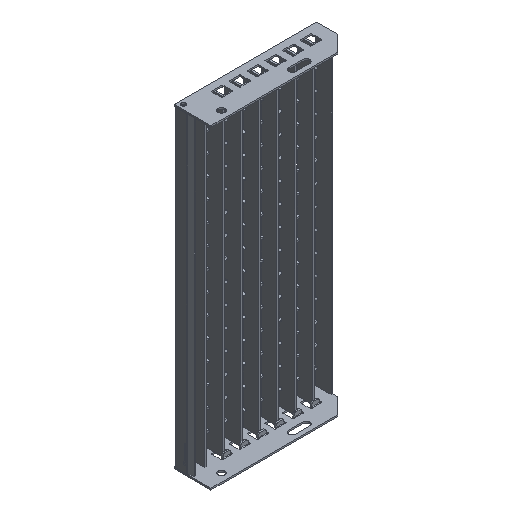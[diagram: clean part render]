
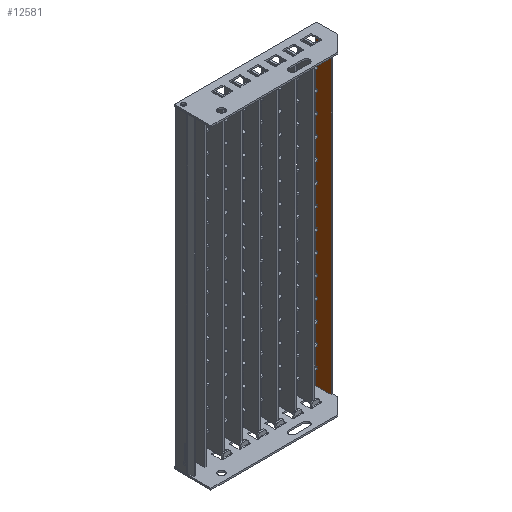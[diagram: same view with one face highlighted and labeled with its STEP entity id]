
A CAD part, isometric view. The second image highlights one B-rep face of the part: STEP entity #12581.
In plain terms, the highlighted planar face has unit normal (-1, 0, 0) as drawn and (1, 0, 0) by its records, which use the part's own axes.
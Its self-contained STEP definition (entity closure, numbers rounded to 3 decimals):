
#1380=FACE_OUTER_BOUND('',#2125,.T.);
#2125=EDGE_LOOP('',(#11596,#11597,#11598,#11599));
#3245=LINE('',#26365,#4368);
#3247=LINE('',#26369,#4370);
#3248=LINE('',#26371,#4371);
#3249=LINE('',#26372,#4372);
#4368=VECTOR('',#17612,10.);
#4370=VECTOR('',#17616,10.);
#4371=VECTOR('',#17617,10.);
#4372=VECTOR('',#17618,10.);
#6193=VERTEX_POINT('',#26362);
#6194=VERTEX_POINT('',#26364);
#6195=VERTEX_POINT('',#26368);
#6196=VERTEX_POINT('',#26370);
#7995=EDGE_CURVE('',#6194,#6193,#3245,.T.);
#7997=EDGE_CURVE('',#6193,#6195,#3247,.T.);
#7998=EDGE_CURVE('',#6196,#6195,#3248,.T.);
#7999=EDGE_CURVE('',#6196,#6194,#3249,.T.);
#11596=ORIENTED_EDGE('',*,*,#7997,.T.);
#11597=ORIENTED_EDGE('',*,*,#7998,.F.);
#11598=ORIENTED_EDGE('',*,*,#7999,.T.);
#11599=ORIENTED_EDGE('',*,*,#7995,.T.);
#11947=PLANE('',#14001);
#12581=ADVANCED_FACE('',(#1380),#11947,.T.);
#14001=AXIS2_PLACEMENT_3D('',#26367,#17614,#17615);
#17612=DIRECTION('',(0.,1.,0.));
#17614=DIRECTION('center_axis',(1.,0.,0.));
#17615=DIRECTION('ref_axis',(0.,0.,-1.));
#17616=DIRECTION('',(0.,0.,1.));
#17617=DIRECTION('',(0.,1.,0.));
#17618=DIRECTION('',(0.,0.,-1.));
#26362=CARTESIAN_POINT('',(0.,594.,-30.));
#26364=CARTESIAN_POINT('',(0.,0.,-30.));
#26365=CARTESIAN_POINT('',(0.,0.,-30.));
#26367=CARTESIAN_POINT('Origin',(0.,0.,-30.));
#26368=CARTESIAN_POINT('',(0.,594.,0.));
#26369=CARTESIAN_POINT('',(0.,594.,0.));
#26370=CARTESIAN_POINT('',(0.,0.,0.));
#26371=CARTESIAN_POINT('',(0.,0.,0.));
#26372=CARTESIAN_POINT('',(0.,0.,0.));
